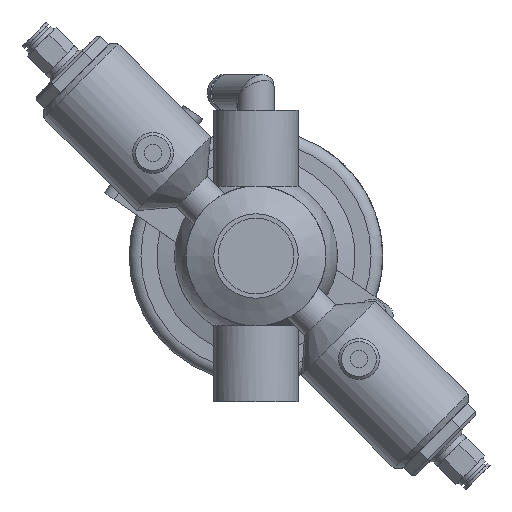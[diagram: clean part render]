
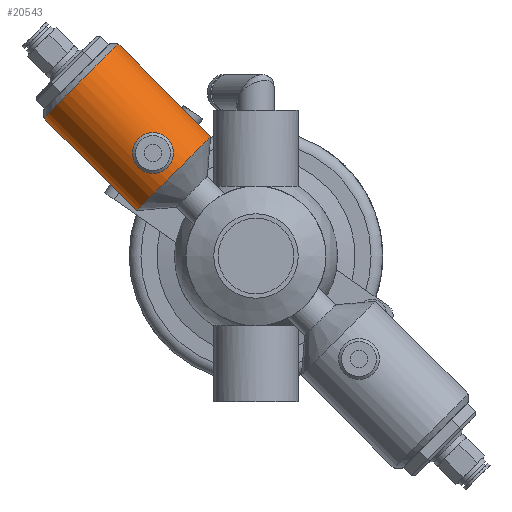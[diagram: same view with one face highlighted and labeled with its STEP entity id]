
A CAD part, front view. The second image highlights one B-rep face of the part: STEP entity #20543.
In plain terms, the highlighted cylindrical face has radius 18 mm (diameter 36 mm), a full revolution.
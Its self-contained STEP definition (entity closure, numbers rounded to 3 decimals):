
#52 = DIRECTION ( 'NONE',  ( -0.707, 0., -0.707 ) ) ;
#401 = CARTESIAN_POINT ( 'NONE',  ( 36.517, -42.859, 39.713 ) ) ;
#977 = CARTESIAN_POINT ( 'NONE',  ( 30.855, -42.717, 35.355 ) ) ;
#1054 = DIRECTION ( 'NONE',  ( -0.707, 0., 0.707 ) ) ;
#1090 = CARTESIAN_POINT ( 'NONE',  ( 36.803, -42.54, 31.084 ) ) ;
#1203 = CARTESIAN_POINT ( 'NONE',  ( 39.404, -42.487, 33.369 ) ) ;
#1438 = CARTESIAN_POINT ( 'NONE',  ( 38.747, -43., 38.328 ) ) ;
#1783 = FACE_OUTER_BOUND ( 'NONE', #21236, .T. ) ;
#2110 = CARTESIAN_POINT ( 'NONE',  ( 60.104, -25., 60.104 ) ) ;
#2698 = CARTESIAN_POINT ( 'NONE',  ( 35.943, -42.791, 39.826 ) ) ;
#2808 = CARTESIAN_POINT ( 'NONE',  ( 39.627, -42.891, 36.802 ) ) ;
#2925 = CARTESIAN_POINT ( 'NONE',  ( 37.344, -42.943, 39.403 ) ) ;
#3038 = CARTESIAN_POINT ( 'NONE',  ( 37.351, -42.486, 31.311 ) ) ;
#3263 = CARTESIAN_POINT ( 'NONE',  ( 34.772, -42.79, 30.884 ) ) ;
#4167 = CARTESIAN_POINT ( 'NONE',  ( 30.855, -42.679, 35.651 ) ) ;
#4399 = CARTESIAN_POINT ( 'NONE',  ( 34.769, -42.642, 39.827 ) ) ;
#4456 = CARTESIAN_POINT ( 'NONE',  ( 72.832, -25., 47.376 ) ) ;
#4514 = CARTESIAN_POINT ( 'NONE',  ( 37.61, -42.465, 31.45 ) ) ;
#4629 = CARTESIAN_POINT ( 'NONE',  ( 35.063, -42.754, 30.855 ) ) ;
#4745 = CARTESIAN_POINT ( 'NONE',  ( 39.711, -42.86, 36.522 ) ) ;
#4972 = CARTESIAN_POINT ( 'NONE',  ( 32.384, -43., 31.963 ) ) ;
#5324 = CYLINDRICAL_SURFACE ( 'NONE', #21910, 18. ) ;
#5677 = CARTESIAN_POINT ( 'NONE',  ( 31.447, -42.465, 37.605 ) ) ;
#6251 = CARTESIAN_POINT ( 'NONE',  ( 39.26, -42.965, 37.611 ) ) ;
#6506 = AXIS2_PLACEMENT_3D ( 'NONE', #2110, #16462, #14721 ) ;
#6708 = CARTESIAN_POINT ( 'NONE',  ( 38.933, -42.993, 38.1 ) ) ;
#6937 = FACE_BOUND ( 'NONE', #7356, .T. ) ;
#7356 = EDGE_LOOP ( 'NONE', ( #20234 ) ) ;
#7400 = CARTESIAN_POINT ( 'NONE',  ( 30.998, -42.573, 36.516 ) ) ;
#7748 = CARTESIAN_POINT ( 'NONE',  ( 33.365, -42.487, 39.402 ) ) ;
#7987 = CARTESIAN_POINT ( 'NONE',  ( 36.52, -42.572, 30.999 ) ) ;
#8219 = CARTESIAN_POINT ( 'NONE',  ( 39.826, -42.791, 35.945 ) ) ;
#8332 = CARTESIAN_POINT ( 'NONE',  ( 31.779, -42.993, 32.608 ) ) ;
#8443 = CARTESIAN_POINT ( 'NONE',  ( 39.855, -42.754, 35.649 ) ) ;
#8494 = CARTESIAN_POINT ( 'NONE',  ( 30.855, -42.717, 35.355 ) ) ;
#8718 = CARTESIAN_POINT ( 'NONE',  ( 15.556, -25., 41.012 ) ) ;
#9584 = CARTESIAN_POINT ( 'NONE',  ( 30.884, -42.642, 35.943 ) ) ;
#9822 = CARTESIAN_POINT ( 'NONE',  ( 38.096, -42.992, 38.937 ) ) ;
#9935 = CARTESIAN_POINT ( 'NONE',  ( 38.936, -42.436, 32.613 ) ) ;
#10045 = CARTESIAN_POINT ( 'NONE',  ( 35.947, -42.641, 30.885 ) ) ;
#10586 = EDGE_CURVE ( 'NONE', #21945, #21945, #16516, .T. ) ;
#10746 = DIRECTION ( 'NONE',  ( -0.707, 0., 0.707 ) ) ;
#11221 = CARTESIAN_POINT ( 'NONE',  ( 32.381, -42.428, 38.745 ) ) ;
#11442 = CARTESIAN_POINT ( 'NONE',  ( 35.06, -42.679, 39.855 ) ) ;
#11522 = CARTESIAN_POINT ( 'NONE',  ( 28.284, -25., 28.284 ) ) ;
#11566 = CARTESIAN_POINT ( 'NONE',  ( 37.607, -42.964, 39.263 ) ) ;
#11685 = CARTESIAN_POINT ( 'NONE',  ( 38.325, -43., 38.749 ) ) ;
#11940 = CIRCLE ( 'NONE', #13808, 18. ) ;
#12031 = CARTESIAN_POINT ( 'NONE',  ( 31.086, -42.891, 33.904 ) ) ;
#13205 = CARTESIAN_POINT ( 'NONE',  ( 33.103, -42.465, 39.262 ) ) ;
#13316 = CARTESIAN_POINT ( 'NONE',  ( 33.109, -42.964, 31.445 ) ) ;
#13375 = VERTEX_POINT ( 'NONE', #8494 ) ;
#13551 = CARTESIAN_POINT ( 'NONE',  ( 39.712, -42.572, 34.192 ) ) ;
#13664 = CARTESIAN_POINT ( 'NONE',  ( 35.651, -42.679, 30.855 ) ) ;
#13784 = CARTESIAN_POINT ( 'NONE',  ( 33.911, -42.891, 31.083 ) ) ;
#13808 = AXIS2_PLACEMENT_3D ( 'NONE', #11522, #18624, #1054 ) ;
#13976 = B_SPLINE_CURVE_WITH_KNOTS ( 'NONE', 3,
 ( #21771, #4167, #9584, #7400, #14503, #16596, #5677, #20157, #21545, #11221, #18320, #13205, #7748, #14983, #20274, #4399, #11442, #18548, #2698, #401, #19803, #2925, #11566, #9822, #11685, #1438, #6708, #6251, #20845, #2808, #4745, #8219, #8443, #22121, #15555, #13551, #19001, #1203, #17048, #9935, #15317, #22584, #16943, #4514, #3038, #1090, #7987, #10045, #13664, #4629, #3263, #15091, #13784, #18780, #13316, #20627, #4972, #20732, #8332, #18666, #17291, #12031, #19111, #16832, #20511, #977 ),
 .UNSPECIFIED., .T., .F.,
 ( 4, 2, 2, 2, 2, 2, 2, 2, 2, 2, 2, 2, 2, 2, 2, 2, 2, 2, 2, 2, 2, 2, 2, 2, 2, 2, 2, 2, 2, 2, 2, 2, 4 ),
 ( 0., 0.001, 0.002, 0.003, 0.004, 0.004, 0.005, 0.006, 0.007, 0.008, 0.009, 0.01, 0.011, 0.011, 0.012, 0.013, 0.014, 0.015, 0.016, 0.017, 0.018, 0.019, 0.019, 0.02, 0.021, 0.022, 0.023, 0.024, 0.025, 0.026, 0.026, 0.027, 0.028 ),
 .UNSPECIFIED. ) ;
#14026 = CARTESIAN_POINT ( 'NONE',  ( 12.021, -25., 12.021 ) ) ;
#14142 = FACE_OUTER_BOUND ( 'NONE', #22581, .T. ) ;
#14239 = ORIENTED_EDGE ( 'NONE', *, *, #21016, .F. ) ;
#14503 = CARTESIAN_POINT ( 'NONE',  ( 31.084, -42.54, 36.802 ) ) ;
#14721 = DIRECTION ( 'NONE',  ( 0.707, 0., -0.707 ) ) ;
#14983 = CARTESIAN_POINT ( 'NONE',  ( 33.907, -42.54, 39.626 ) ) ;
#15091 = CARTESIAN_POINT ( 'NONE',  ( 34.197, -42.859, 30.997 ) ) ;
#15317 = CARTESIAN_POINT ( 'NONE',  ( 38.749, -42.429, 32.386 ) ) ;
#15555 = CARTESIAN_POINT ( 'NONE',  ( 39.827, -42.642, 34.773 ) ) ;
#16462 = DIRECTION ( 'NONE',  ( -0.707, 0., -0.707 ) ) ;
#16516 = CIRCLE ( 'NONE', #6506, 18. ) ;
#16596 = CARTESIAN_POINT ( 'NONE',  ( 31.309, -42.487, 37.347 ) ) ;
#16832 = CARTESIAN_POINT ( 'NONE',  ( 30.884, -42.791, 34.767 ) ) ;
#16943 = CARTESIAN_POINT ( 'NONE',  ( 38.1, -42.436, 31.777 ) ) ;
#17048 = CARTESIAN_POINT ( 'NONE',  ( 39.264, -42.465, 33.105 ) ) ;
#17291 = CARTESIAN_POINT ( 'NONE',  ( 31.31, -42.944, 33.362 ) ) ;
#17296 = EDGE_CURVE ( 'NONE', #13375, #13375, #13976, .T. ) ;
#18042 = ORIENTED_EDGE ( 'NONE', *, *, #10586, .T. ) ;
#18320 = CARTESIAN_POINT ( 'NONE',  ( 32.609, -42.436, 38.932 ) ) ;
#18548 = CARTESIAN_POINT ( 'NONE',  ( 35.646, -42.753, 39.855 ) ) ;
#18624 = DIRECTION ( 'NONE',  ( -0.707, 0., -0.707 ) ) ;
#18666 = CARTESIAN_POINT ( 'NONE',  ( 31.449, -42.964, 33.102 ) ) ;
#18780 = CARTESIAN_POINT ( 'NONE',  ( 33.368, -42.943, 31.307 ) ) ;
#19001 = CARTESIAN_POINT ( 'NONE',  ( 39.627, -42.541, 33.911 ) ) ;
#19111 = CARTESIAN_POINT ( 'NONE',  ( 30.999, -42.86, 34.19 ) ) ;
#19803 = CARTESIAN_POINT ( 'NONE',  ( 36.797, -42.89, 39.628 ) ) ;
#20157 = CARTESIAN_POINT ( 'NONE',  ( 31.774, -42.436, 38.096 ) ) ;
#20234 = ORIENTED_EDGE ( 'NONE', *, *, #17296, .T. ) ;
#20274 = CARTESIAN_POINT ( 'NONE',  ( 34.191, -42.572, 39.712 ) ) ;
#20511 = CARTESIAN_POINT ( 'NONE',  ( 30.855, -42.754, 35.059 ) ) ;
#20543 = ADVANCED_FACE ( 'NONE', ( #1783, #14142, #6937 ), #5324, .T. ) ;
#20627 = CARTESIAN_POINT ( 'NONE',  ( 32.616, -42.992, 31.773 ) ) ;
#20681 = VERTEX_POINT ( 'NONE', #8718 ) ;
#20732 = CARTESIAN_POINT ( 'NONE',  ( 31.968, -43., 32.379 ) ) ;
#20845 = CARTESIAN_POINT ( 'NONE',  ( 39.402, -42.943, 37.346 ) ) ;
#21016 = EDGE_CURVE ( 'NONE', #20681, #20681, #11940, .T. ) ;
#21236 = EDGE_LOOP ( 'NONE', ( #14239 ) ) ;
#21545 = CARTESIAN_POINT ( 'NONE',  ( 31.965, -42.428, 38.329 ) ) ;
#21771 = CARTESIAN_POINT ( 'NONE',  ( 30.855, -42.717, 35.355 ) ) ;
#21910 = AXIS2_PLACEMENT_3D ( 'NONE', #14026, #52, #10746 ) ;
#21945 = VERTEX_POINT ( 'NONE', #4456 ) ;
#22121 = CARTESIAN_POINT ( 'NONE',  ( 39.855, -42.68, 35.065 ) ) ;
#22581 = EDGE_LOOP ( 'NONE', ( #18042 ) ) ;
#22584 = CARTESIAN_POINT ( 'NONE',  ( 38.332, -42.428, 31.968 ) ) ;
